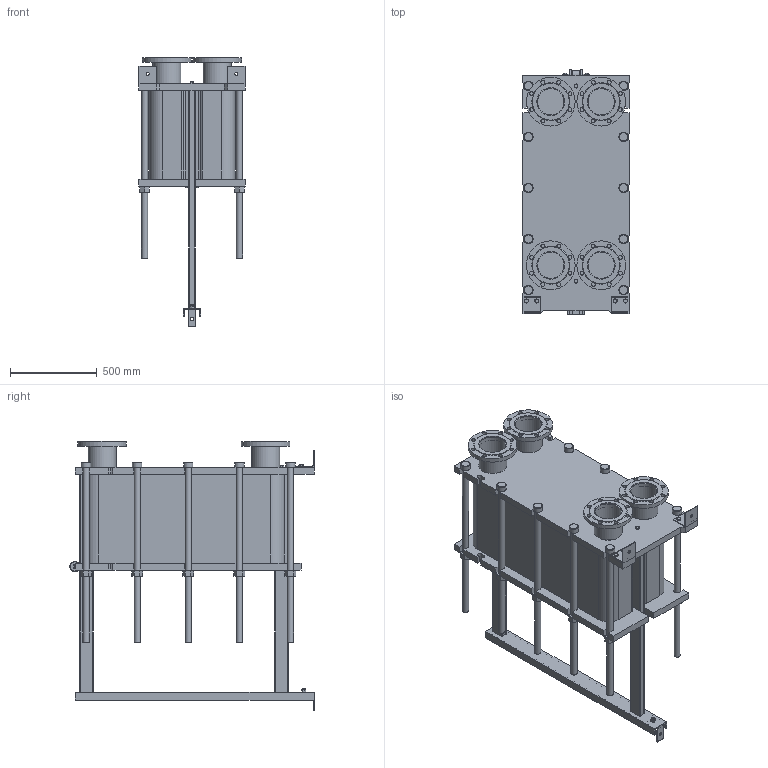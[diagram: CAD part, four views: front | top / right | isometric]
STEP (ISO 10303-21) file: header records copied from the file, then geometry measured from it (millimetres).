
FILE_DESCRIPTION(/* description */ (''),/* implementation_level */ '2;1');
FILE_NAME(/* name */ 'C:\Users\zhuro\Desktop\ENCO\TO\ЭН-041\ЭН-0,5-041-148-1.stp',/* time_stamp */ '2022-06-06T11:01:16+03:00',/* author */ ('zhuro'),/* organization */ (''),/* preprocessor_version */ 'ST-DEVELOPER v18.1',/* originating_system */ 'Autodesk Inventor 2022',/* authorisation */ '');
FILE_SCHEMA (('AUTOMOTIVE_DESIGN { 1 0 10303 214 3 1 1 }'));
Length unit declared in the file: millimetre
Products named in the file (1): ЭН-0,5-041-148-1
Bounding box: 610 x 1406.5 x 1550 mm (x, y, z)
Volume: 371026709.3 mm3; surface area: 10082871.8 mm2
Topology: 52 solids, 52 shells, 711 faces, 1696 edges, 1094 vertices
Faces by surface type: plane 487, cylinder 177, cone 41, torus 6
Full cylindrical faces by diameter (mm): 8 x4, 10 x2, 16 x8, 18 x3, 22 x32, 36 x24, 50 x1, 54 x10, 60 x12, 151 x4, 161 x8, 280 x4
Entity records: 22667 total; most frequent: CARTESIAN_POINT 5230, DIRECTION 3644, ORIENTED_EDGE 3392, EDGE_CURVE 1696, AXIS2_PLACEMENT_3D 1272, LINE 1100, VECTOR 1100, VERTEX_POINT 1094
